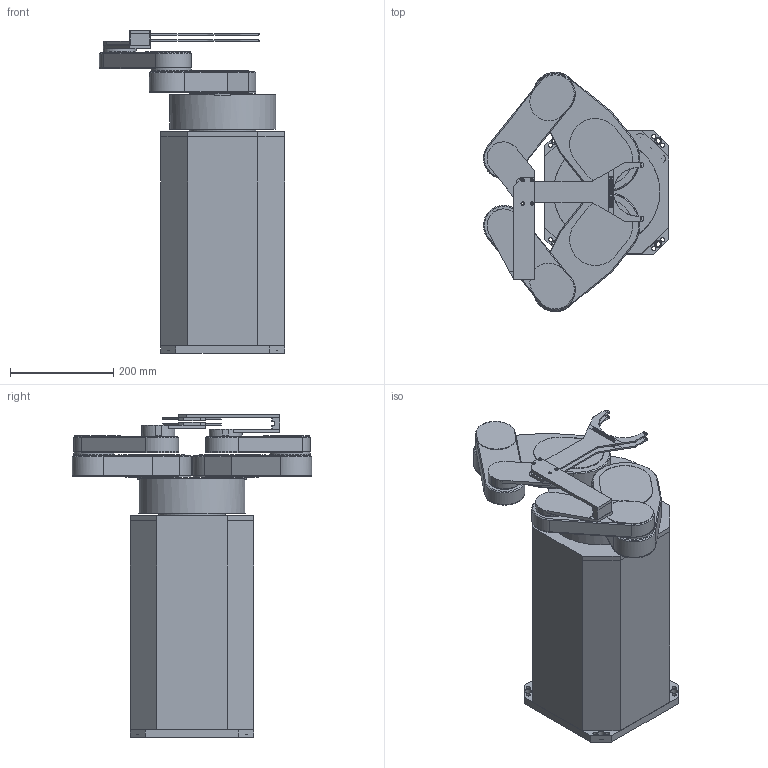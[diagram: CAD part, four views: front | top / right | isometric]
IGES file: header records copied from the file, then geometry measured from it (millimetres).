
Global section: file name: STCR4160SN-300-CM-09738; native system: Autodesk Inventor 2018; preprocessor: unknown; author: m-takamori; date: 20180405.101243; units: millimetre
Bounding box: 358.99 x 463.8 x 626 mm (x, y, z)
Volume: 28542133.2 mm3; surface area: 1224210.9 mm2
Topology: 12 solids, 12 shells, 452 faces, 1166 edges, 778 vertices
Faces by surface type: bspline 452
